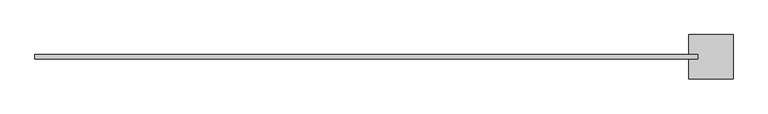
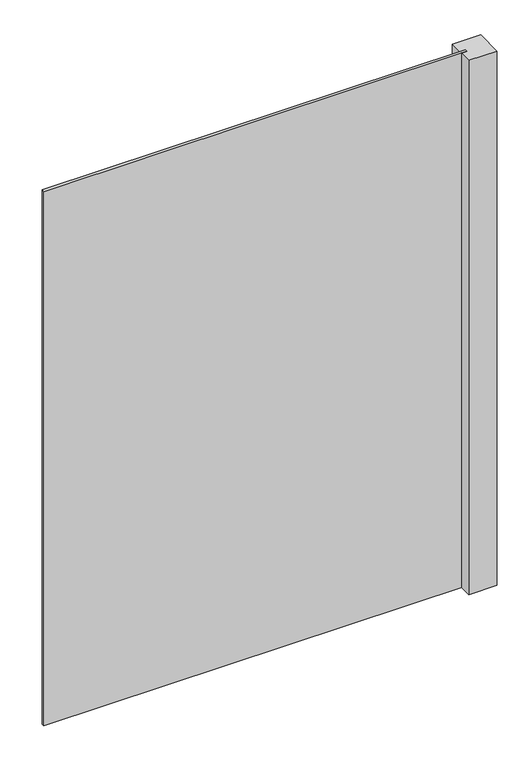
"""IFC4 building model written with IfcOpenShell, lengths in millimetres: railing geometry, REJA_PERIMETRAL_SEG_2000mm."""

from ifc_helpers import new_model, si_unit, frame, origin, place, context, project, spatial, polyline, outline, extrude, source, transform, mapped, element, save


def railing_555e50fc(model_context):
    return source(origin(), model_context, "Body", "SweptSolid", [
        extrude(outline(polyline([(-22227.5711159, 7726.7023118), (-23727.5711159, 7726.7023118), (-23727.5711159, 7736.7023118), (-22227.5711159, 7736.7023118), (-22227.5711159, 7726.7023118)])), frame((0.0, 0.0, 1500.0), z_axis=(0.0, 0.0, 1.0), x_axis=(1.0, 0.0, 0.0)), (0.0, 0.0, 1.0), 2000.0),
        extrude(outline(polyline([(-22147.5711159, 7681.7023118), (-22247.5711159, 7681.7023118), (-22247.5711159, 7781.7023118), (-22147.5711159, 7781.7023118), (-22147.5711159, 7681.7023118)])), frame((0.0, 0.0, 1500.0), z_axis=(0.0, 0.0, 1.0), x_axis=(1.0, 0.0, 0.0)), (0.0, 0.0, 1.0), 2000.0),
    ])


if __name__ == "__main__":
    model = new_model("IFC4")
    model_context = context("Model", 3, world=origin())
    ifc_project = project(units=[si_unit("LENGTHUNIT", "METRE", prefix="MILLI")], contexts=[model_context])
    site = spatial("IfcSite", under=ifc_project)
    building = spatial("IfcBuilding", under=site)
    placement = place(None, origin())
    railing_shape = railing_555e50fc(model_context)
    element("IfcRailing", 1, ObjectType="REJA_PERIMETRAL_SEG_2000mm", at=placement, inside=building, context=model_context, shape_type="MappedRepresentation", body=[
        mapped(railing_shape, transform((0.0, 0.0, 0.0), x_axis=(1.0, 0.0, 0.0), y_axis=(0.0, 1.0, 0.0), z_axis=(0.0, 0.0, 1.0))),
    ])
    save(model, "model.ifc")
